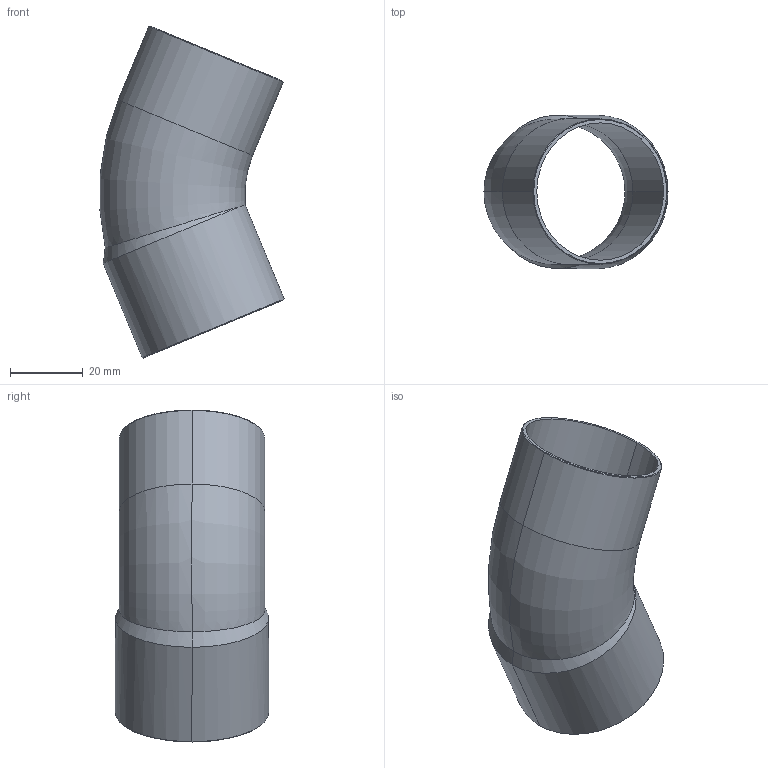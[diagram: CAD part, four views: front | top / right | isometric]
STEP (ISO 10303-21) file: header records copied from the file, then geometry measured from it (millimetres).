
FILE_DESCRIPTION((''),'2;1');
FILE_NAME('P:\Bouwmaten\z-maattekeningen 3D\5000\5040\1504040.stp','2005-10-05T11:25:26',('Kris'),(''),'Autodesk Inventor 8','Autodesk Inventor 8','');
FILE_SCHEMA(('AUTOMOTIVE_DESIGN { 1 0 10303 214 1 1 1 1 }'));
Length unit declared in the file: millimetre
Products named in the file (1): 1504040
Bounding box: 50.63 x 42.2 x 91.33 mm (x, y, z)
Volume: 10991.7 mm3; surface area: 20233.2 mm2
Topology: 1 solids, 1 shells, 26 faces, 54 edges, 30 vertices
Faces by surface type: cone 12, cylinder 8, torus 4, plane 2
Entity records: 857 total; most frequent: CARTESIAN_POINT 266, DIRECTION 132, ORIENTED_EDGE 108, AXIS2_PLACEMENT_3D 57, EDGE_CURVE 54, VERTEX_POINT 30, CIRCLE 30, EDGE_LOOP 28
